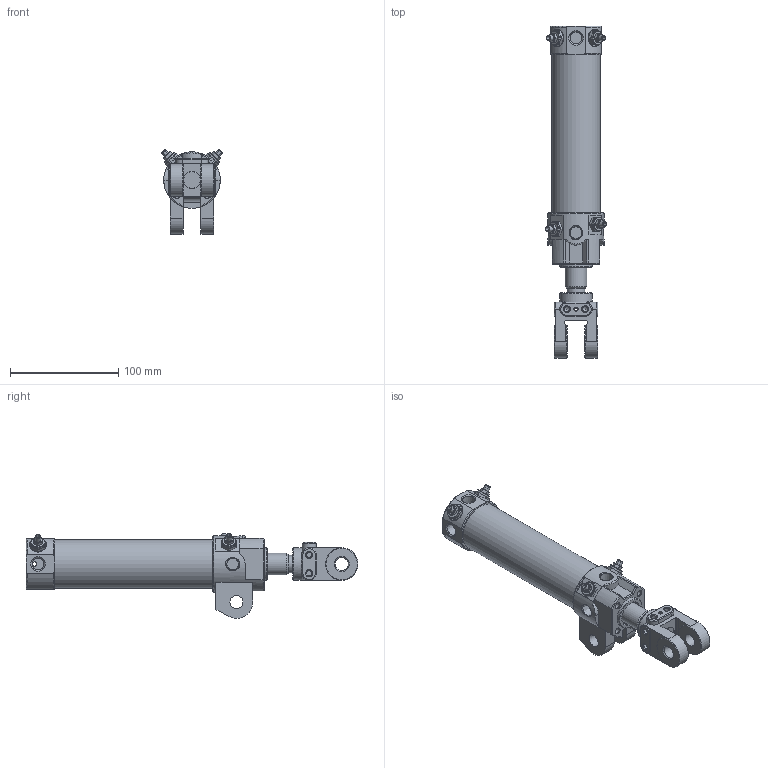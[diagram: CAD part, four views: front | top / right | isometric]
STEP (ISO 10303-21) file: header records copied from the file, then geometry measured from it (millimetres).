
FILE_DESCRIPTION((''),'2;1');
FILE_NAME('I:\3D電子目錄\氣缸\DCK\DCK\DCK-1A-40x100-Y.stp','2008-02-26T11:10:56',('Administrator'),(''),'Autodesk Inventor 11','Autodesk Inventor 11','');
FILE_SCHEMA(('AUTOMOTIVE_DESIGN { 1 0 10303 214 1 1 1 1 }'));
Length unit declared in the file: millimetre
Products named in the file (6): DCK-1A-40-Y; 緩衝針; 緩衝針-1; 緩衝針-201; 緩衝針-3
Assembly tree (8 placements, depth 3):
  DCK-1A-40-Y
    DCK-1A-40-Y
    緩衝針  x4
      緩衝針-1
      緩衝針-201
      緩衝針-3
Bounding box: 56.06 x 306 x 78.02 mm (x, y, z)
Volume: 242087.5 mm3; surface area: 105908.6 mm2
Topology: 15 solids, 15 shells, 731 faces, 1686 edges, 1042 vertices
Faces by surface type: plane 241, cylinder 217, cone 148, bspline 83, torus 40, sphere 2
Full cylindrical faces by diameter (mm): 2 x1, 3 x3, 3.8 x2, 4 x6, 4.6 x4, 5 x8, 5.1 x4, 5.2 x12, 5.5 x4, 7 x1, 7.25 x1, 7.9 x4, 8 x2, 8.3 x1, 10 x2, 12 x4, 12.8 x4, 16 x3, 20 x1, 21 x1, 22 x3, 23 x1, 24.7 x1, 26 x1, 28 x1, 29 x1, 30 x4, 33 x1, 40 x1, 42 x2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
Entity records: 25546 total; most frequent: CARTESIAN_POINT 15419, DIRECTION 1979, ORIENTED_EDGE 1952, EDGE_CURVE 976, AXIS2_PLACEMENT_3D 846, EDGE_LOOP 687, VERTEX_POINT 677, FACE_OUTER_BOUND 480
